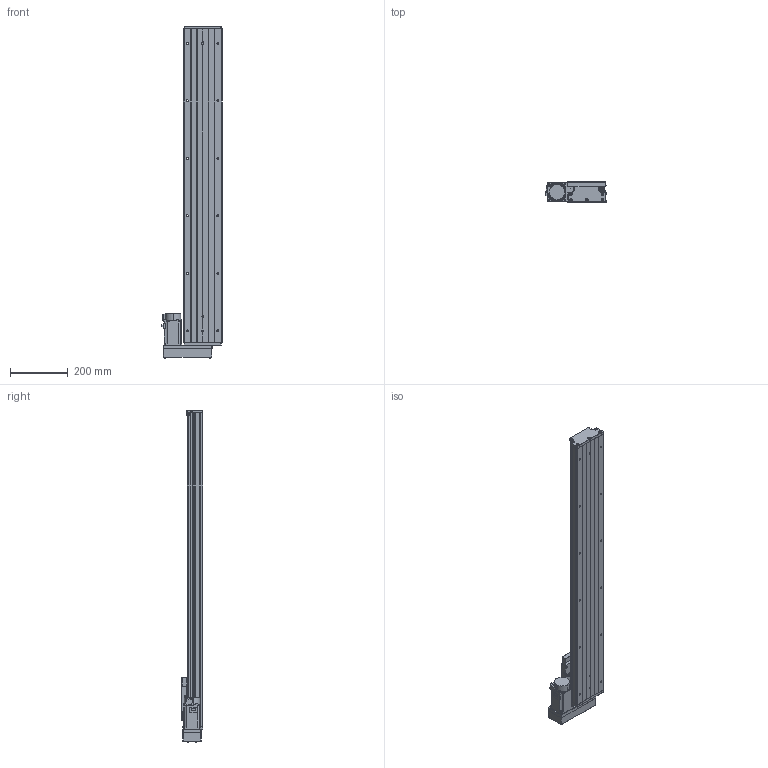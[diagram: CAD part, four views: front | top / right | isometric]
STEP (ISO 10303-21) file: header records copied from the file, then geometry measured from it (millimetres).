
FILE_DESCRIPTION (( 'STEP AP203' ), '1' );
FILE_NAME ('CTH130-900-BL-M40-C4.step', '2023-06-30T02:40:07', ( '微软用户' ), ( '微软中国' ), 'SwSTEP 2.0', 'SolidWorks 2020', '' );
FILE_SCHEMA (( 'CONFIG_CONTROL_DESIGN' ));
Length unit declared in the file: millimetre
Products named in the file (20): HG-KN43J-S100; GB T308.1-2013-6.35; CTHA60-016; GBT 70.2-M4¡Á35_M4¡Á35; GTH14-004; GBT 70.1-M3℅5; GTH14-015-2_CTHA86-015-2; GTH14-005; GBT77-2000 M3×3; GTH14-033; GB1155-6X6; CTH130-031; CTH130-900-BL-M40-C4; GBT70.1 M5℅16; GBT 70.2-M3¡Á5_M3¡Á6; GTH14-001_900; CTHA60-017; す晦芛蹟隊 M3℅5; CTH130-002_GTH14-002; EE_SX911P_R
Assembly tree (60 placements, depth 2):
  CTH130-900-BL-M40-C4
    GTH14-001_900
    CTH130-002_GTH14-002
    GB T308.1-2013-6.35  x2
    GTH14-004
    GTH14-005
    GB1155-6X6  x2
    GBT70.1 M5℅16  x10
    CTHA60-017  x3
    EE_SX911P_R  x3
    CTHA60-016  x2
    GBT 70.1-M3℅5  x6
    GBT77-2000 M3×3  x6
    CTH130-031
    GBT 70.2-M3¡Á5_M3¡Á6  x8
    す晦芛蹟隊 M3℅5  x6
    HG-KN43J-S100
    GBT 70.2-M4¡Á35_M4¡Á35  x4
    GTH14-015-2_CTHA86-015-2
    GTH14-033
Bounding box: 209.3 x 76 x 1154.2 mm (x, y, z)
Volume: 6070102.1 mm3; surface area: 989598.4 mm2
Topology: 63 solids, 63 shells, 2445 faces, 5821 edges, 3601 vertices
Faces by surface type: plane 1312, cylinder 654, cone 299, torus 124, sphere 36, bspline 20
Entity records: 44232 total; most frequent: CARTESIAN_POINT 9897, DIRECTION 6462, ORIENTED_EDGE 6348, EDGE_CURVE 3174, AXIS2_PLACEMENT_3D 2210, VECTOR 2042, LINE 2042, VERTEX_POINT 2011
